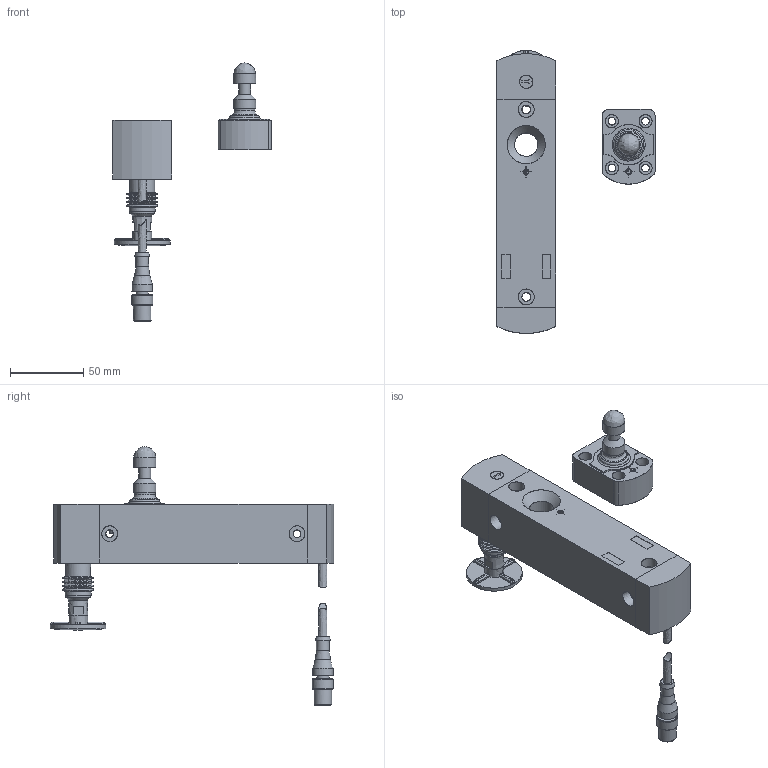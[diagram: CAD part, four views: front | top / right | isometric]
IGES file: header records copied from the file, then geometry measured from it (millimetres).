
Global section: file name: 3DCAD_L250_P31SL_CB02M12S8_PB_SCA.igs; native system: NX V2306; preprocessor: SIEMENS PLM Software NX2306.9180; date: 20250915.103757; units: millimetre
Bounding box: 108 x 193.5 x 176.5 mm (x, y, z)
Surface area: 63719.8 mm2 (no closed solid volume)
Topology: 0 solids, 0 shells, 285 faces, 2115 edges, 1995 vertices
Faces by surface type: bspline 285
